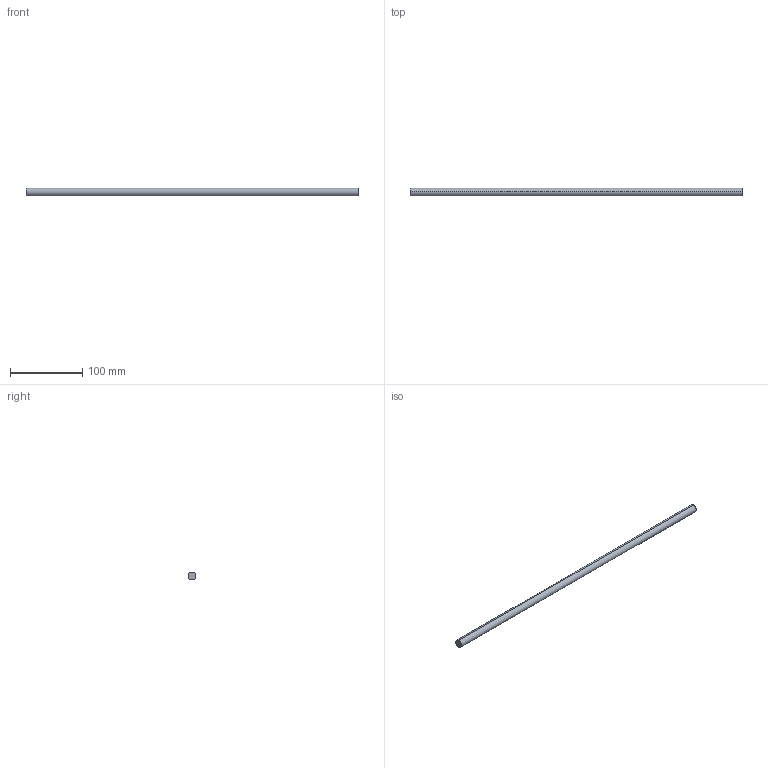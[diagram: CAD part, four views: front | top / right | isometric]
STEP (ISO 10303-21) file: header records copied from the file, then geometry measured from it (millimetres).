
FILE_DESCRIPTION (( 'STEP AP214' ), '1' );
FILE_NAME ('Querreling_Frontblende_Innenlade_KS19_KAB-550.step', '2010-09-22T15:05:34', ( 'grass' ), ( '' ), 'SwSTEP 2.0', 'SolidWorks 2010', '' );
FILE_SCHEMA (( 'AUTOMOTIVE_DESIGN' ));
Length unit declared in the file: millimetre
Products named in the file (1): Querreling_Frontblende_Innenlade_KS19_KAB-550
Bounding box: 459 x 11 x 11 mm (x, y, z)
Volume: 43620.2 mm3; surface area: 16052 mm2
Topology: 1 solids, 1 shells, 4 faces, 6 edges, 4 vertices
Faces by surface type: cylinder 2, plane 2
Entity records: 128 total; most frequent: DIRECTION 20, CARTESIAN_POINT 15, ORIENTED_EDGE 12, AXIS2_PLACEMENT_3D 9, EDGE_CURVE 6, FACE_OUTER_BOUND 4, EDGE_LOOP 4, CIRCLE 4
